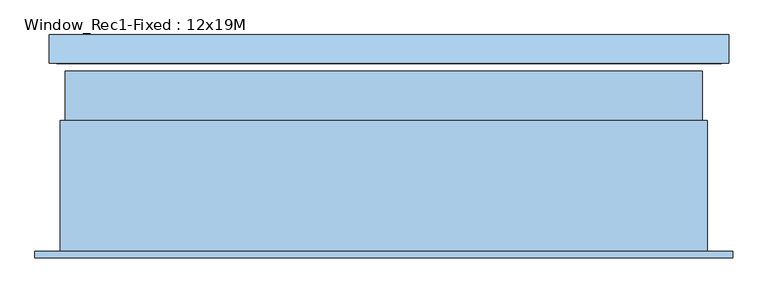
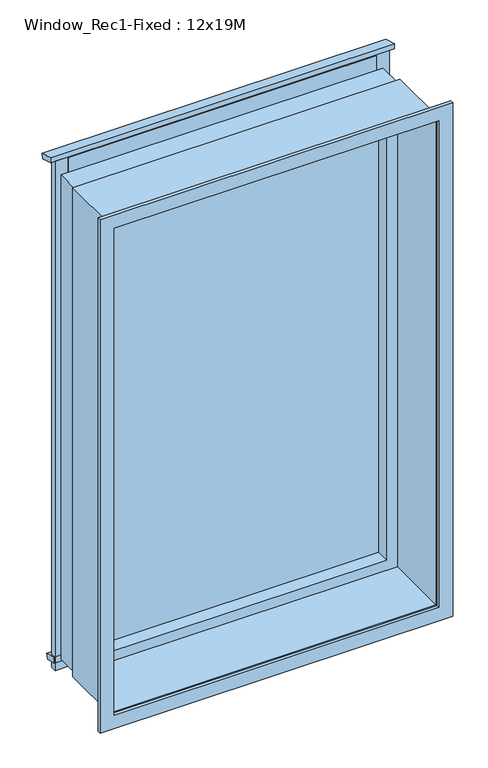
"""IFC4 building model written with IfcOpenShell, lengths in millimetres: window geometry, Window_Rec1-Fixed : 12x19M."""

from ifc_helpers import new_model, si_unit, frame, origin, place, context, project, spatial, polyline, outline, extrude, source, transform, mapped, element, save


def window_rec1_fixed_12x19m_2afd01a2(model_context):
    return source(origin(), model_context, "Body", "SweptSolid", [
        extrude(outline(polyline([(238.0508419, 2844.3065207), (233.1332801, 2825.95393), (184.8369888, 2838.8948822), (184.8369888, 2858.5651297), (238.0508419, 2844.3065207)])), frame((-530.0, 0.0, 0.0), z_axis=(1.0, 0.0, 0.0), x_axis=(0.0, 1.0, 0.0)), (0.0, 0.0, 1.0), 1270.0),
        extrude(outline(polyline([(233.1332801, 890.6791642), (227.4392611, 869.4287961), (184.8369888, 880.8440405), (184.8369888, 903.6201165), (233.1332801, 890.6791642)])), frame((-516.0, 0.0, 0.0), z_axis=(1.0, 0.0, 0.0), x_axis=(0.0, 1.0, 0.0)), (0.0, 0.0, 1.0), 1242.0),
        extrude(outline(polyline([(-465.0, 184.8369888), (-465.0, 206.8369888), (675.0, 206.8369888), (675.0, 184.8369888), (-465.0, 184.8369888)])), frame((0.0, 0.0, 855.0051732), z_axis=(0.0, 0.0, 1.0), x_axis=(1.0, 0.0, 0.0)), (0.0, 0.0, 1.0), 20.0),
        extrude(outline(polyline([(-465.0, 184.8369888), (-465.0, 206.8369888), (675.0, 206.8369888), (675.0, 184.8369888), (-465.0, 184.8369888)])), frame((0.0, 0.0, 2775.0), z_axis=(0.0, 0.0, 1.0), x_axis=(1.0, 0.0, 0.0)), (0.0, 0.0, 1.0), 60.0),
        extrude(outline(polyline([(-465.0, 184.8369888), (-513.0, 184.8369888), (-513.0, 206.8369888), (-465.0, 206.8369888), (-465.0, 184.8369888)])), frame((0.0, 0.0, 850.0), z_axis=(0.0, 0.0, 1.0), x_axis=(1.0, 0.0, 0.0)), (0.0, 0.0, 1.0), 1989.1537013),
        extrude(outline(polyline([(723.0, 184.8369888), (675.0, 184.8369888), (675.0, 206.8369888), (723.0, 206.8369888), (723.0, 184.8369888)])), frame((0.0, 0.0, 850.0), z_axis=(0.0, 0.0, 1.0), x_axis=(1.0, 0.0, 0.0)), (0.0, 0.0, 1.0), 1989.0),
        extrude(outline(polyline([(2790.0, 690.0), (2790.0, -500.0), (900.0, -500.0), (900.0, 690.0), (2790.0, 690.0)]), holes=[polyline([(940.0, 650.0), (940.0, -460.0), (2750.0, -460.0), (2750.0, 650.0), (940.0, 650.0)])]), frame((0.0, 77.8369888, 0.0), z_axis=(0.0, 1.0, 0.0), x_axis=(0.0, 0.0, 1.0)), (0.0, 0.0, 1.0), 92.0),
        extrude(outline(polyline([(650.0, 127.3369888), (-460.0, 127.3369888), (-460.0, 152.3369888), (650.0, 152.3369888), (650.0, 127.3369888)])), frame((0.0, 0.0, 940.0), z_axis=(0.0, 0.0, 1.0), x_axis=(1.0, 0.0, 0.0)), (0.0, 0.0, 1.0), 1810.0),
        extrude(outline(polyline([(2800.0, 700.0), (2800.0, -510.0), (890.0, -510.0), (890.0, 700.0), (2800.0, 700.0)]), holes=[polyline([(900.0, -500.0), (2790.0, -500.0), (2790.0, 690.0), (900.0, 690.0), (900.0, -500.0)])]), frame((0.0, -167.1630112, 0.0), z_axis=(0.0, 1.0, 0.0), x_axis=(0.0, 0.0, 1.0)), (0.0, 0.0, 1.0), 245.0),
        extrude(outline(polyline([(2847.0, 747.0), (2847.0, -557.0), (843.0, -557.0), (843.0, 747.0), (2847.0, 747.0)]), holes=[polyline([(895.0, 695.0), (895.0, -505.0), (2795.0, -505.0), (2795.0, 695.0), (895.0, 695.0)])]), frame((0.0, -179.1630112, 0.0), z_axis=(0.0, 1.0, 0.0), x_axis=(0.0, 0.0, 1.0)), (0.0, 0.0, 1.0), 12.0),
    ])


if __name__ == "__main__":
    model = new_model("IFC4")
    model_context = context("Model", 3, world=origin())
    ifc_project = project(units=[si_unit("LENGTHUNIT", "METRE", prefix="MILLI")], contexts=[model_context])
    site = spatial("IfcSite", under=ifc_project)
    building = spatial("IfcBuilding", under=site)
    placement = place(None, origin())
    window_rec1_fixed_12x19m_shape = window_rec1_fixed_12x19m_2afd01a2(model_context)
    element("IfcWindow", 1, ObjectType="Window_Rec1-Fixed : 12x19M", at=placement, inside=building, context=model_context, shape_type="MappedRepresentation", body=[
        mapped(window_rec1_fixed_12x19m_shape, transform((0.0, 0.0, 0.0), x_axis=(1.0, 0.0, 0.0), y_axis=(0.0, 1.0, 0.0), z_axis=(0.0, 0.0, 1.0))),
    ])
    save(model, "model.ifc")
